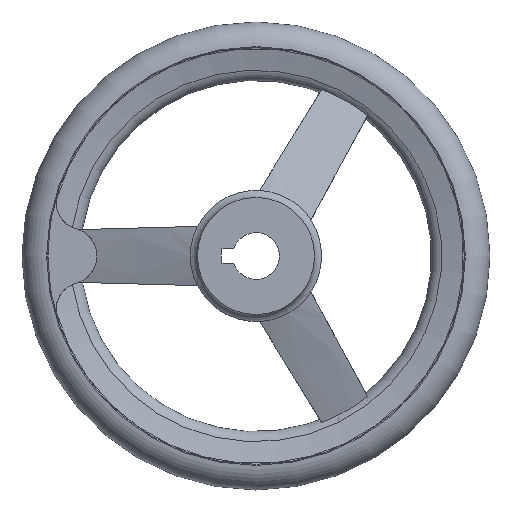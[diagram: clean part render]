
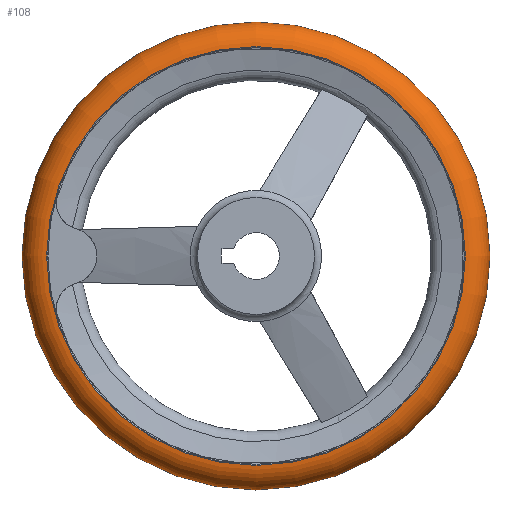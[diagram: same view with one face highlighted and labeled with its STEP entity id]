
A CAD part, left-side view. The second image highlights one B-rep face of the part: STEP entity #108.
In plain terms, the highlighted toroidal (fillet/blend) face has major radius 89 mm and minor radius 11 mm.
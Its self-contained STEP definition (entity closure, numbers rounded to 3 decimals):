
#108 = ADVANCED_FACE( '', ( #210, #211, #212 ), #213, .T. );
#210 = FACE_BOUND( '', #340, .T. );
#211 = FACE_OUTER_BOUND( '', #341, .T. );
#212 = FACE_OUTER_BOUND( '', #342, .T. );
#213 = TOROIDAL_SURFACE( '', #343, 89., 11. );
#340 = VERTEX_LOOP( '', #700 );
#341 = EDGE_LOOP( '', ( #701 ) );
#342 = EDGE_LOOP( '', ( #702 ) );
#343 = AXIS2_PLACEMENT_3D( '', #703, #704, #705 );
#700 = VERTEX_POINT( '', #950 );
#701 = ORIENTED_EDGE( '', *, *, #949, .T. );
#702 = ORIENTED_EDGE( '', *, *, #941, .F. );
#703 = CARTESIAN_POINT( '', ( 48., 0., 0. ) );
#704 = DIRECTION( '', ( 1., 0., 0. ) );
#705 = DIRECTION( '', ( 0., 1., 0. ) );
#941 = EDGE_CURVE( '', #1149, #1149, #1150, .T. );
#949 = EDGE_CURVE( '', #1161, #1161, #1162, .T. );
#950 = CARTESIAN_POINT( '', ( 48., 100., 0. ) );
#1149 = VERTEX_POINT( '', #1810 );
#1150 = CIRCLE( '', #1811, 89.458 );
#1161 = VERTEX_POINT( '', #1860 );
#1162 = CIRCLE( '', #1861, 89.458 );
#1810 = CARTESIAN_POINT( '', ( 58.99, 89.458, 0. ) );
#1811 = AXIS2_PLACEMENT_3D( '', #2024, #2025, #2026 );
#1860 = CARTESIAN_POINT( '', ( 37.01, 89.458, 0. ) );
#1861 = AXIS2_PLACEMENT_3D( '', #2042, #2043, #2044 );
#2024 = CARTESIAN_POINT( '', ( 58.99, 0., 0. ) );
#2025 = DIRECTION( '', ( 1., 0., 0. ) );
#2026 = DIRECTION( '', ( 0., 1., 0. ) );
#2042 = CARTESIAN_POINT( '', ( 37.01, 0., 0. ) );
#2043 = DIRECTION( '', ( 1., 0., 0. ) );
#2044 = DIRECTION( '', ( 0., 1., 0. ) );
